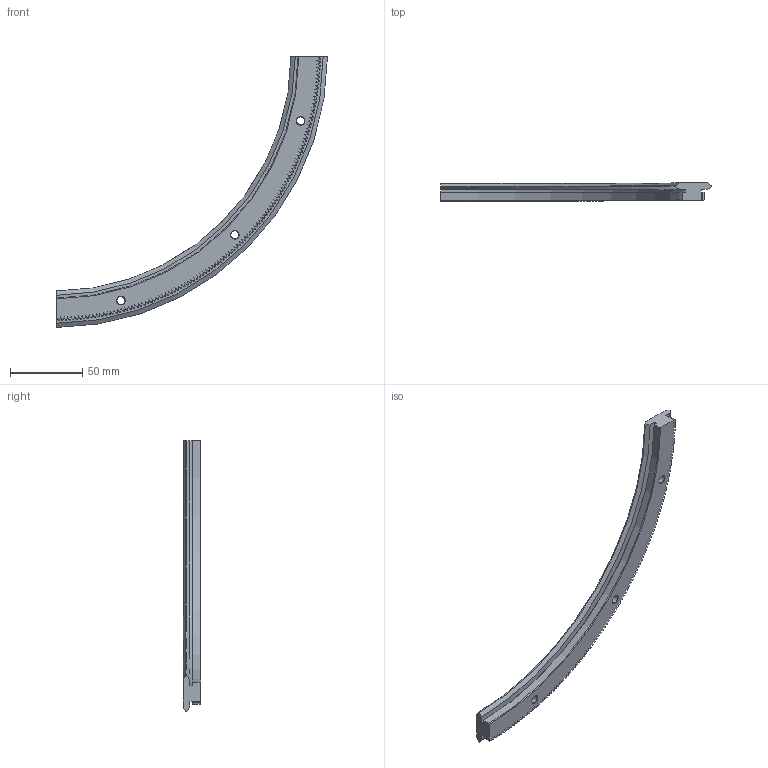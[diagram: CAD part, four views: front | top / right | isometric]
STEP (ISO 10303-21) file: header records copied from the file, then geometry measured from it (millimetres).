
FILE_DESCRIPTION( ( 'STEP AP203' ), '1' );
FILE_NAME( 'p:/temp/worker_56/temp/exporttempdir_3996_1872_kybRv/format_0/R25 351 R90 P.stp', '2021-08-30T04:13:18', ( 'License CC BY-ND 4.0' ), ( 'CADENAS' ), ' ', 'PARTsolutions', ' ' );
FILE_SCHEMA( ( 'CONFIG_CONTROL_DESIGN' ) );
Length unit declared in the file: millimetre
Products named in the file (1): _R25 351 R90 P
Bounding box: 187.09 x 12.25 x 187.09 mm (x, y, z)
Volume: 55130.8 mm3; surface area: 23827.3 mm2
Topology: 1 solids, 1 shells, 712 faces, 1890 edges, 1183 vertices
Faces by surface type: plane 467, cylinder 122, cone 121, torus 2
Full cylindrical faces by diameter (mm): 5.5 x3, 9 x3
Entity records: 22164 total; most frequent: CARTESIAN_POINT 4507, ORIENTED_EDGE 3762, DIRECTION 3664, EDGE_CURVE 1881, AXIS2_PLACEMENT_3D 1310, VERTEX_POINT 1183, LINE 1044, VECTOR 1044
